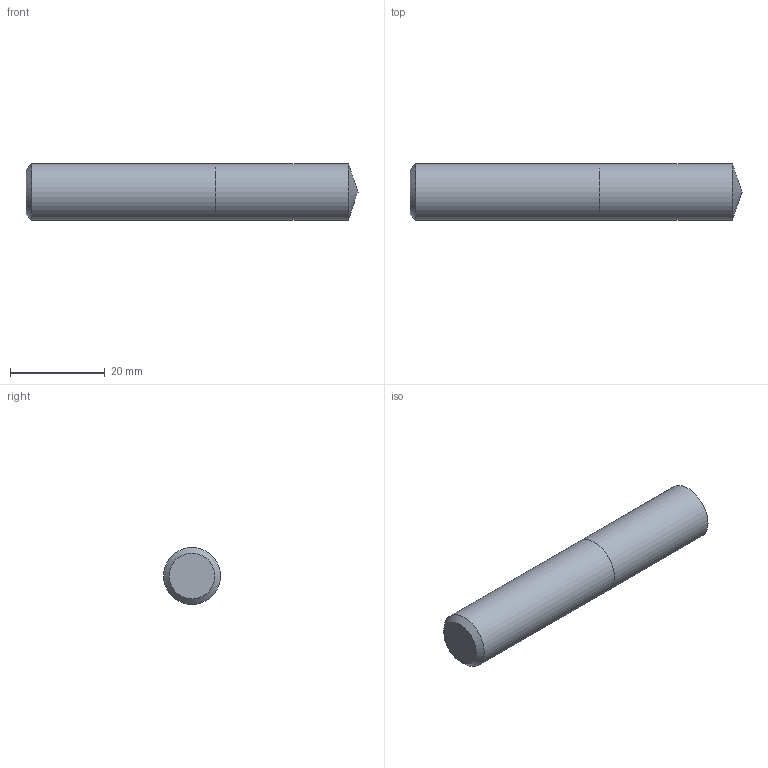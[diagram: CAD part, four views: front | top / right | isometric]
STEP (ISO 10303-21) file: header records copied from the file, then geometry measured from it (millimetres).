
FILE_DESCRIPTION (( 'STEP AP214' ), '1' );
FILE_NAME ('03-2229.STEP', '2022-02-07T07:05:28', ( 'USER' ), ( '' ), 'SwSTEP 2.0', 'SolidWorks 2018', '' );
FILE_SCHEMA (( 'AUTOMOTIVE_DESIGN' ));
Length unit declared in the file: millimetre
Products named in the file (1): 03-2229
Bounding box: 70 x 12 x 12 mm (x, y, z)
Volume: 7735.7 mm3; surface area: 2991.6 mm2
Topology: 2 solids, 2 shells, 7 faces, 11 edges, 7 vertices
Faces by surface type: plane 3, cylinder 2, cone 2
Full cylindrical faces by diameter (mm): 12 x2
Entity records: 189 total; most frequent: DIRECTION 26, CARTESIAN_POINT 18, AXIS2_PLACEMENT_3D 13, EDGE_LOOP 10, ORIENTED_EDGE 10, FACE_OUTER_BOUND 9, ADVANCED_FACE 7, UNCERTAINTY_MEASURE_WITH_UNIT 6
